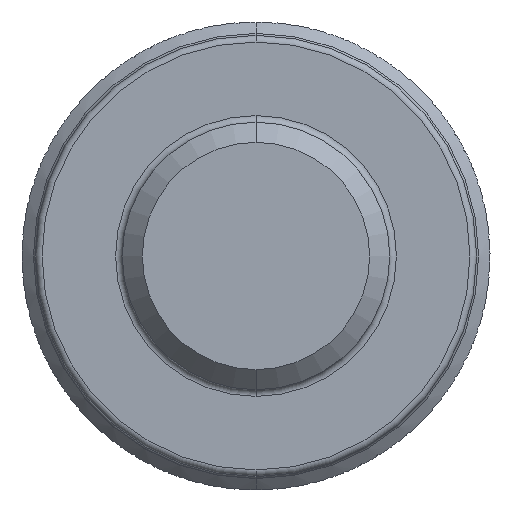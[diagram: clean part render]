
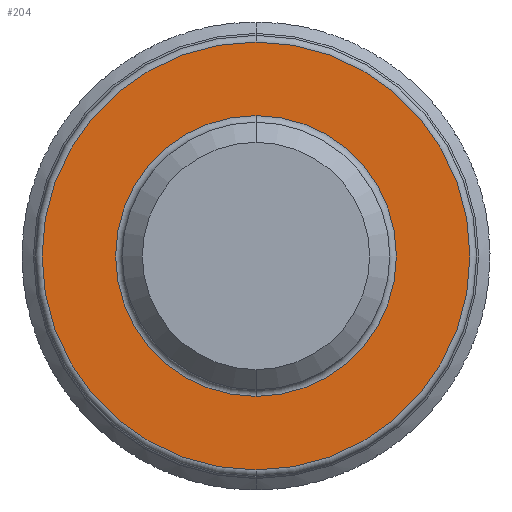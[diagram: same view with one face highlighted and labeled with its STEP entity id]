
A CAD part, front view. The second image highlights one B-rep face of the part: STEP entity #204.
In plain terms, the highlighted planar face has unit normal (0, -1, 0).
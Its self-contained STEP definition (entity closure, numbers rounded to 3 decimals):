
#67 = DIRECTION ( 'NONE',  ( 0., 0., -1. ) ) ;
#204 = ADVANCED_FACE ( 'NONE', ( #4618, #6183 ), #748, .T. ) ;
#246 = CIRCLE ( 'NONE', #8176, 2.1 ) ;
#434 = DIRECTION ( 'NONE',  ( 0., 0., -1. ) ) ;
#604 = DIRECTION ( 'NONE',  ( 0., 0., -1. ) ) ;
#748 = PLANE ( 'NONE',  #4835 ) ;
#882 = AXIS2_PLACEMENT_3D ( 'NONE', #7817, #4068, #4733 ) ;
#949 = ORIENTED_EDGE ( 'NONE', *, *, #7398, .T. ) ;
#1445 = VERTEX_POINT ( 'NONE', #6050 ) ;
#1731 = EDGE_CURVE ( 'NONE', #2634, #1445, #6477, .T. ) ;
#2074 = AXIS2_PLACEMENT_3D ( 'NONE', #3919, #7019, #67 ) ;
#2634 = VERTEX_POINT ( 'NONE', #7736 ) ;
#2697 = CARTESIAN_POINT ( 'NONE',  ( 0., -4., 3.2 ) ) ;
#2783 = VERTEX_POINT ( 'NONE', #2697 ) ;
#3082 = DIRECTION ( 'NONE',  ( 0., -1., 0. ) ) ;
#3482 = DIRECTION ( 'NONE',  ( 0., -1., 0. ) ) ;
#3919 = CARTESIAN_POINT ( 'NONE',  ( 0., -4., 0. ) ) ;
#4068 = DIRECTION ( 'NONE',  ( 0., -1., 0. ) ) ;
#4618 = FACE_BOUND ( 'NONE', #9233, .T. ) ;
#4733 = DIRECTION ( 'NONE',  ( 0., 0., -1. ) ) ;
#4835 = AXIS2_PLACEMENT_3D ( 'NONE', #9256, #3082, #7999 ) ;
#5019 = EDGE_LOOP ( 'NONE', ( #7559, #949 ) ) ;
#5088 = AXIS2_PLACEMENT_3D ( 'NONE', #8944, #3482, #434 ) ;
#5450 = CARTESIAN_POINT ( 'NONE',  ( 0., -4., -3.2 ) ) ;
#5995 = CARTESIAN_POINT ( 'NONE',  ( 0., -4., 0. ) ) ;
#6050 = CARTESIAN_POINT ( 'NONE',  ( 0., -4., -2.1 ) ) ;
#6183 = FACE_OUTER_BOUND ( 'NONE', #5019, .T. ) ;
#6226 = CIRCLE ( 'NONE', #5088, 3.2 ) ;
#6402 = CIRCLE ( 'NONE', #882, 3.2 ) ;
#6477 = CIRCLE ( 'NONE', #2074, 2.1 ) ;
#6947 = EDGE_CURVE ( 'NONE', #1445, #2634, #246, .T. ) ;
#7019 = DIRECTION ( 'NONE',  ( 0., 1., 0. ) ) ;
#7326 = ORIENTED_EDGE ( 'NONE', *, *, #1731, .T. ) ;
#7398 = EDGE_CURVE ( 'NONE', #2783, #7827, #6226, .T. ) ;
#7466 = ORIENTED_EDGE ( 'NONE', *, *, #6947, .T. ) ;
#7559 = ORIENTED_EDGE ( 'NONE', *, *, #7899, .T. ) ;
#7736 = CARTESIAN_POINT ( 'NONE',  ( 0., -4., 2.1 ) ) ;
#7817 = CARTESIAN_POINT ( 'NONE',  ( 0., -4., 0. ) ) ;
#7827 = VERTEX_POINT ( 'NONE', #5450 ) ;
#7899 = EDGE_CURVE ( 'NONE', #7827, #2783, #6402, .T. ) ;
#7999 = DIRECTION ( 'NONE',  ( 0., 0., -1. ) ) ;
#8176 = AXIS2_PLACEMENT_3D ( 'NONE', #5995, #9069, #604 ) ;
#8944 = CARTESIAN_POINT ( 'NONE',  ( 0., -4., 0. ) ) ;
#9069 = DIRECTION ( 'NONE',  ( 0., 1., 0. ) ) ;
#9233 = EDGE_LOOP ( 'NONE', ( #7466, #7326 ) ) ;
#9256 = CARTESIAN_POINT ( 'NONE',  ( 2., -4., 0. ) ) ;
